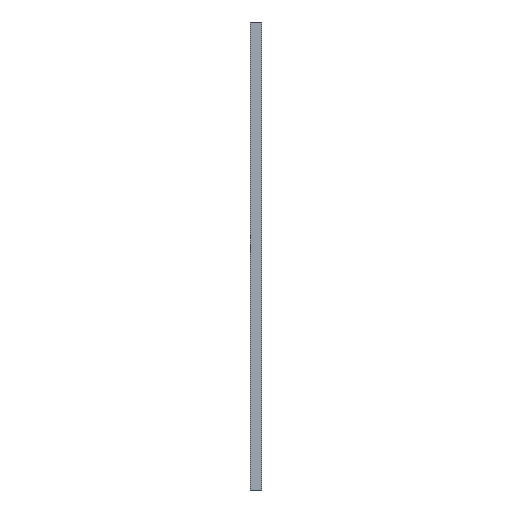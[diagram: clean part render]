
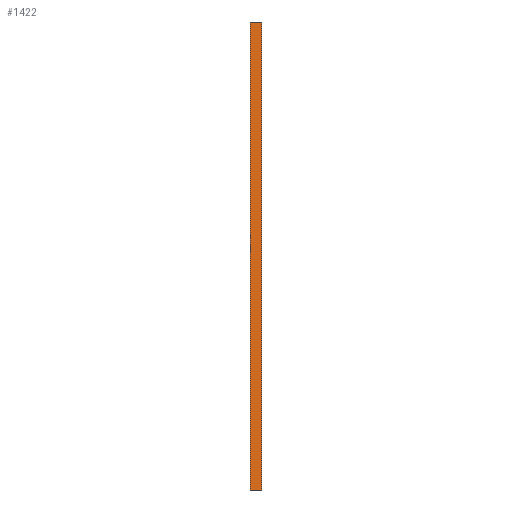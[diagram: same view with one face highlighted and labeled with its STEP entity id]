
A CAD part, front view. The second image highlights one B-rep face of the part: STEP entity #1422.
In plain terms, the highlighted planar face has unit normal (0.707, -0.707, 0).
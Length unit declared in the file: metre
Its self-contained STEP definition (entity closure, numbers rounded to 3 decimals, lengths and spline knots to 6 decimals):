
#490=ORIENTED_EDGE('',*,*,#499,.F.);
#491=ORIENTED_EDGE('',*,*,#572,.F.);
#492=ORIENTED_EDGE('',*,*,#503,.F.);
#493=ORIENTED_EDGE('',*,*,#640,.F.);
#499=EDGE_CURVE('',#643,#644,#783,.F.);
#503=EDGE_CURVE('',#646,#648,#787,.F.);
#572=EDGE_CURVE('',#648,#643,#790,.F.);
#640=EDGE_CURVE('',#644,#646,#792,.T.);
#643=VERTEX_POINT('',#2067);
#644=VERTEX_POINT('',#2069);
#646=VERTEX_POINT('',#2075);
#648=VERTEX_POINT('',#2078);
#783=LINE('',#2068,#795);
#787=LINE('',#2077,#799);
#790=LINE('',#2215,#802);
#792=LINE('',#2350,#804);
#795=VECTOR('',#1646,1.);
#799=VECTOR('',#1652,1.);
#802=VECTOR('',#1789,1.);
#804=VECTOR('',#1925,1.);
#1074=EDGE_LOOP('',(#490,#491,#492,#493));
#1344=FACE_BOUND('',#1074,.T.);
#1350=PLANE('',#1639);
#1422=ADVANCED_FACE('',(#1344),#1350,.F.);
#1639=AXIS2_PLACEMENT_3D('',#2418,#2059,#2060);
#1646=DIRECTION('',(-0.707,-0.707,0.));
#1652=DIRECTION('',(0.707,0.707,0.));
#1789=DIRECTION('',(0.,0.,-1.));
#1925=DIRECTION('',(0.,0.,-1.));
#2059=DIRECTION('',(-0.707,0.707,0.));
#2060=DIRECTION('',(0.,0.,-1.));
#2067=CARTESIAN_POINT('',(-0.0465,-0.031,0.005));
#2068=CARTESIAN_POINT('',(-0.031,-0.0155,0.005));
#2069=CARTESIAN_POINT('',(-0.0445,-0.029,0.005));
#2075=CARTESIAN_POINT('',(-0.0445,-0.029,-0.074));
#2077=CARTESIAN_POINT('',(-0.031,-0.0155,-0.074));
#2078=CARTESIAN_POINT('',(-0.0465,-0.031,-0.074));
#2215=CARTESIAN_POINT('',(-0.0465,-0.031,-0.0345));
#2350=CARTESIAN_POINT('',(-0.0445,-0.029,-0.0345));
#2418=CARTESIAN_POINT('',(-0.0445,-0.029,-0.0345));
